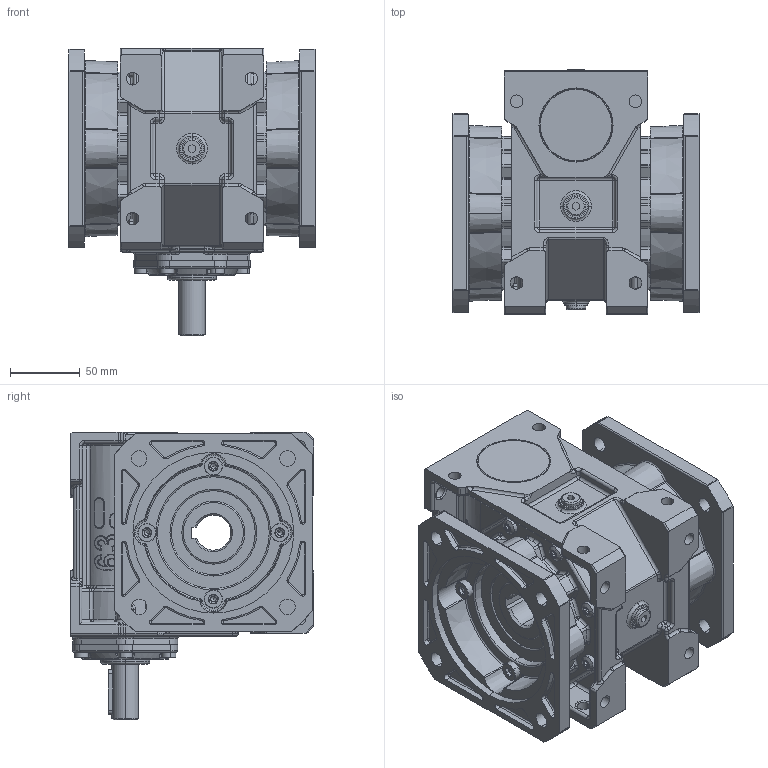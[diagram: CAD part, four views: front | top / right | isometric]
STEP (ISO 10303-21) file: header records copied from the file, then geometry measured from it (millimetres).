
FILE_DESCRIPTION (( 'STEP AP214' ), '1' );
FILE_NAME ('mkt63-solidshaft-ffrl.step', '2017-09-08T10:33:35', ( '' ), ( '' ), 'SwSTEP 2.0', 'SolidWorks 2016', '' );
FILE_SCHEMA (( 'AUTOMOTIVE_DESIGN' ));
Length unit declared in the file: millimetre
Products named in the file (6): Víèko MKT63; Pøíruba FF MKT 63_odlitek; mkt63-solidshaft-ffrl; Skrin MKT63_MKT63 SolidShaft ; D6912_æroub DIN 6912 - M8x25; D6912_æroub DIN 6912 - M6x25
Assembly tree (18 placements, depth 2):
  mkt63-solidshaft-ffrl
    Skrin MKT63_MKT63 SolidShaft 
    D6912_æroub DIN 6912 - M6x25  x6
    Pøíruba FF MKT 63_odlitek  x2
    D6912_æroub DIN 6912 - M8x25  x8
    Víèko MKT63
Bounding box: 176 x 174.5 x 206 mm (x, y, z)
Volume: 2384789.2 mm3; surface area: 324674.2 mm2
Topology: 18 solids, 18 shells, 2973 faces, 6927 edges, 3992 vertices
Faces by surface type: cylinder 1092, plane 572, torus 560, cone 323, bspline 266, sphere 160
Entity records: 82911 total; most frequent: CARTESIAN_POINT 27782, DIRECTION 11376, ORIENTED_EDGE 10484, EDGE_CURVE 5242, AXIS2_PLACEMENT_3D 4803, VERTEX_POINT 3137, CIRCLE 2807, EDGE_LOOP 2369
